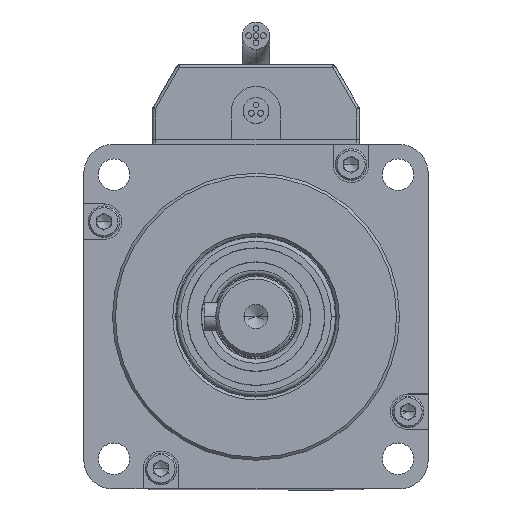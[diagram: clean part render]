
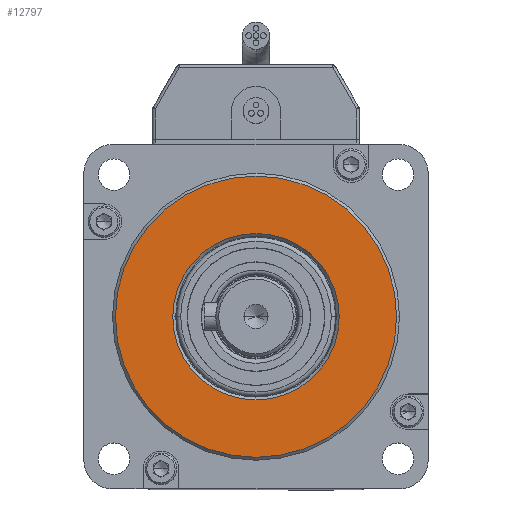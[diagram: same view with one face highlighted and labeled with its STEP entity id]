
A CAD part, top view. The second image highlights one B-rep face of the part: STEP entity #12797.
In plain terms, the highlighted planar face has unit normal (0, 0, 1).
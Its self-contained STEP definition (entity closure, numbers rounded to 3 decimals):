
#1004 = DIRECTION ( 'NONE',  ( 1., 0., 0. ) ) ;
#1237 = PLANE ( 'NONE',  #13229 ) ;
#1683 = ORIENTED_EDGE ( 'NONE', *, *, #8722, .T. ) ;
#1781 = AXIS2_PLACEMENT_3D ( 'NONE', #16827, #12280, #12177 ) ;
#2189 = ORIENTED_EDGE ( 'NONE', *, *, #12475, .T. ) ;
#2248 = CIRCLE ( 'NONE', #10810, 14.5 ) ;
#2505 = DIRECTION ( 'NONE',  ( 0., 0., 1. ) ) ;
#3086 = FACE_BOUND ( 'NONE', #11577, .T. ) ;
#3798 = CARTESIAN_POINT ( 'NONE',  ( 0., 0., 3. ) ) ;
#4583 = DIRECTION ( 'NONE',  ( 0., 0., 1. ) ) ;
#4965 = CARTESIAN_POINT ( 'NONE',  ( -24.5, 0., 3. ) ) ;
#5558 = DIRECTION ( 'NONE',  ( 1., 0., 0. ) ) ;
#7117 = CARTESIAN_POINT ( 'NONE',  ( 0., 0., 3. ) ) ;
#7242 = CARTESIAN_POINT ( 'NONE',  ( 0., 0., 3. ) ) ;
#7297 = AXIS2_PLACEMENT_3D ( 'NONE', #7242, #14870, #8621 ) ;
#8572 = CIRCLE ( 'NONE', #7297, 24.5 ) ;
#8621 = DIRECTION ( 'NONE',  ( 1., 0., 0. ) ) ;
#8722 = EDGE_CURVE ( 'NONE', #16527, #14619, #8572, .T. ) ;
#9092 = VERTEX_POINT ( 'NONE', #10530 ) ;
#9342 = EDGE_CURVE ( 'NONE', #9092, #16453, #2248, .T. ) ;
#10147 = DIRECTION ( 'NONE',  ( 0., 0., -1. ) ) ;
#10530 = CARTESIAN_POINT ( 'NONE',  ( 14.5, 0., 3. ) ) ;
#10645 = DIRECTION ( 'NONE',  ( 1., 0., 0. ) ) ;
#10810 = AXIS2_PLACEMENT_3D ( 'NONE', #16088, #10147, #5558 ) ;
#11268 = CIRCLE ( 'NONE', #11584, 24.5 ) ;
#11413 = EDGE_CURVE ( 'NONE', #14619, #16527, #11268, .T. ) ;
#11577 = EDGE_LOOP ( 'NONE', ( #15947, #2189 ) ) ;
#11584 = AXIS2_PLACEMENT_3D ( 'NONE', #3798, #2505, #1004 ) ;
#12177 = DIRECTION ( 'NONE',  ( 1., 0., 0. ) ) ;
#12280 = DIRECTION ( 'NONE',  ( 0., 0., -1. ) ) ;
#12475 = EDGE_CURVE ( 'NONE', #16453, #9092, #19539, .T. ) ;
#12797 = ADVANCED_FACE ( 'NONE', ( #3086, #13069 ), #1237, .T. ) ;
#12816 = CARTESIAN_POINT ( 'NONE',  ( -14.5, 0., 3. ) ) ;
#13069 = FACE_OUTER_BOUND ( 'NONE', #15088, .T. ) ;
#13229 = AXIS2_PLACEMENT_3D ( 'NONE', #7117, #4583, #10645 ) ;
#14619 = VERTEX_POINT ( 'NONE', #15010 ) ;
#14870 = DIRECTION ( 'NONE',  ( 0., 0., 1. ) ) ;
#15010 = CARTESIAN_POINT ( 'NONE',  ( 24.5, 0., 3. ) ) ;
#15088 = EDGE_LOOP ( 'NONE', ( #1683, #17799 ) ) ;
#15947 = ORIENTED_EDGE ( 'NONE', *, *, #9342, .T. ) ;
#16088 = CARTESIAN_POINT ( 'NONE',  ( 0., 0., 3. ) ) ;
#16453 = VERTEX_POINT ( 'NONE', #12816 ) ;
#16527 = VERTEX_POINT ( 'NONE', #4965 ) ;
#16827 = CARTESIAN_POINT ( 'NONE',  ( 0., 0., 3. ) ) ;
#17799 = ORIENTED_EDGE ( 'NONE', *, *, #11413, .T. ) ;
#19539 = CIRCLE ( 'NONE', #1781, 14.5 ) ;
